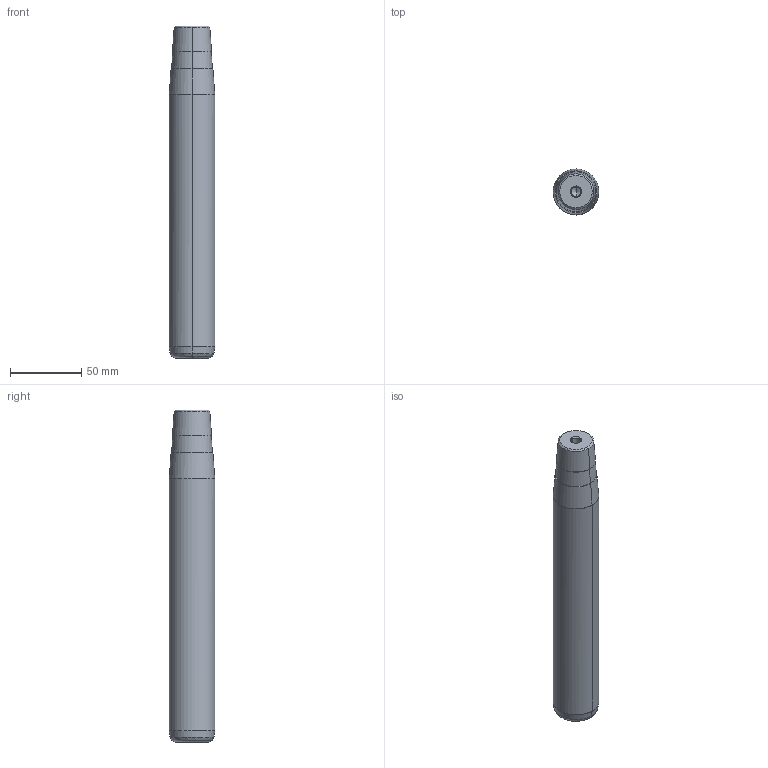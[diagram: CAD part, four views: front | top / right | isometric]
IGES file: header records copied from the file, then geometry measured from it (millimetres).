
Start section: START RECORD GO HERE.
Global section: file name: 722-32x200x233.igs; native system: DASSAULT SYSTEMES CATIA V5 R20 - www.3ds.com; preprocessor: CATIA Version 5 Release 20 ; author: Utente; organization: NB04-ASUS; date: 20210108.171000; units: millimetre
Bounding box: 32 x 32 x 233 mm (x, y, z)
Surface area: 24998.4 mm2 (no closed solid volume)
Topology: 0 solids, 0 shells, 32 faces, 192 edges, 188 vertices
Faces by surface type: revolution 30, plane 2
